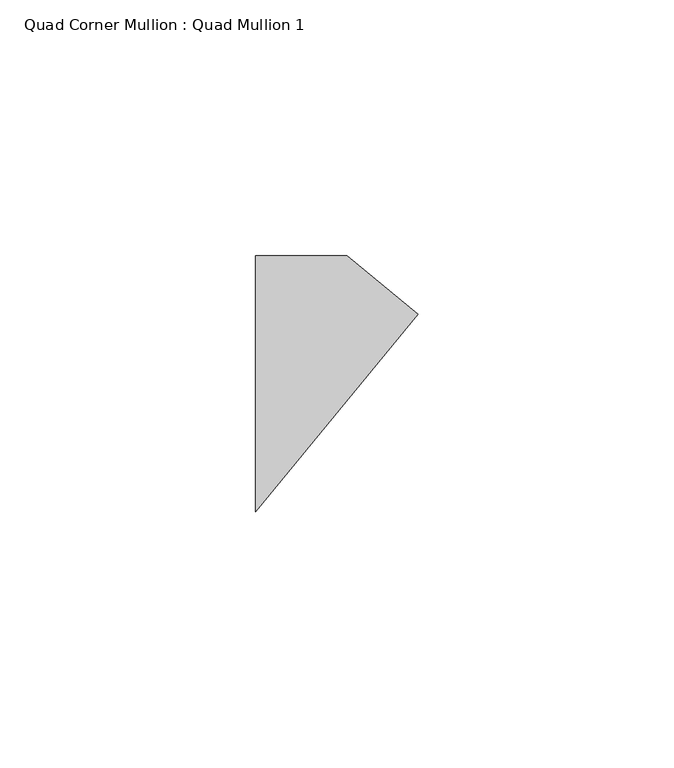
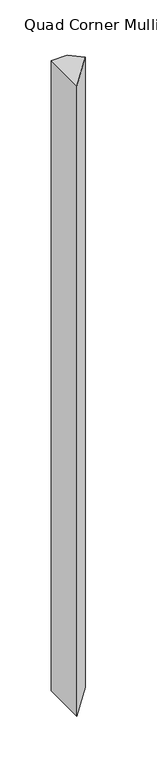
"""IFC4 building model written with IfcOpenShell, lengths in millimetres: member geometry, Quad Corner Mullion : Quad Mullion 1."""

from ifc_helpers import new_model, si_unit, frame, origin, place, context, project, spatial, polyline, outline, extrude, source, transform, mapped, element, save


def quad_corner_mullion_quad_mullion_1_5f197bdb(model_context):
    return source(origin(), model_context, "Body", "SweptSolid", [
        extrude(outline(polyline([(22.8068923, 13.6086231), (-8.963758, -25.0), (-8.963758, 25.0), (8.963758, 25.0), (22.8068923, 13.6086231)])), frame((0.0, 0.0, -750.0), z_axis=(0.0, 0.0, 1.0), x_axis=(1.0, 0.0, 0.0)), (0.0, 0.0, 1.0), 750.0),
    ])


if __name__ == "__main__":
    model = new_model("IFC4")
    model_context = context("Model", 3, world=origin())
    ifc_project = project(units=[si_unit("LENGTHUNIT", "METRE", prefix="MILLI")], contexts=[model_context])
    site = spatial("IfcSite", under=ifc_project)
    building = spatial("IfcBuilding", under=site)
    placement = place(None, origin())
    quad_corner_mullion_quad_mullion_1_shape = quad_corner_mullion_quad_mullion_1_5f197bdb(model_context)
    element("IfcMember", 1, ObjectType="Quad Corner Mullion : Quad Mullion 1", at=placement, inside=building, context=model_context, shape_type="MappedRepresentation", body=[
        mapped(quad_corner_mullion_quad_mullion_1_shape, transform((0.0, 0.0, 0.0), x_axis=(1.0, 0.0, 0.0), y_axis=(0.0, 1.0, 0.0), z_axis=(0.0, 0.0, 1.0))),
    ])
    save(model, "model.ifc")
